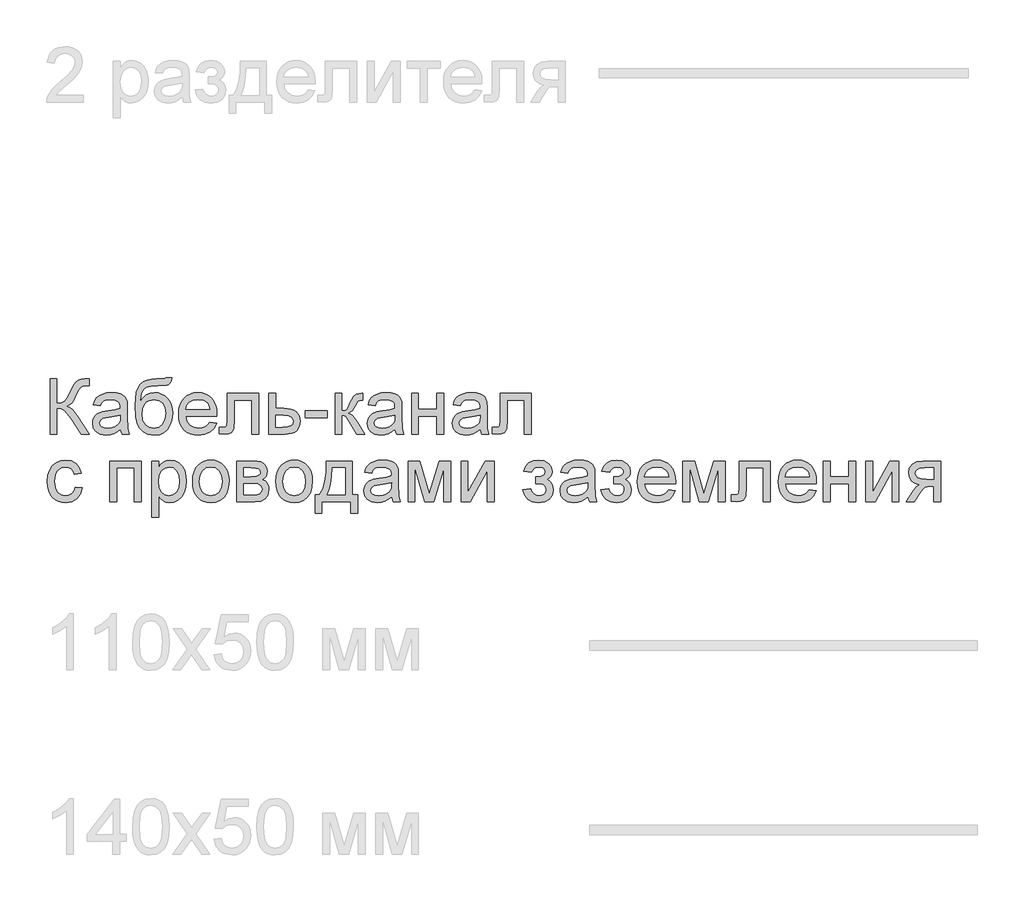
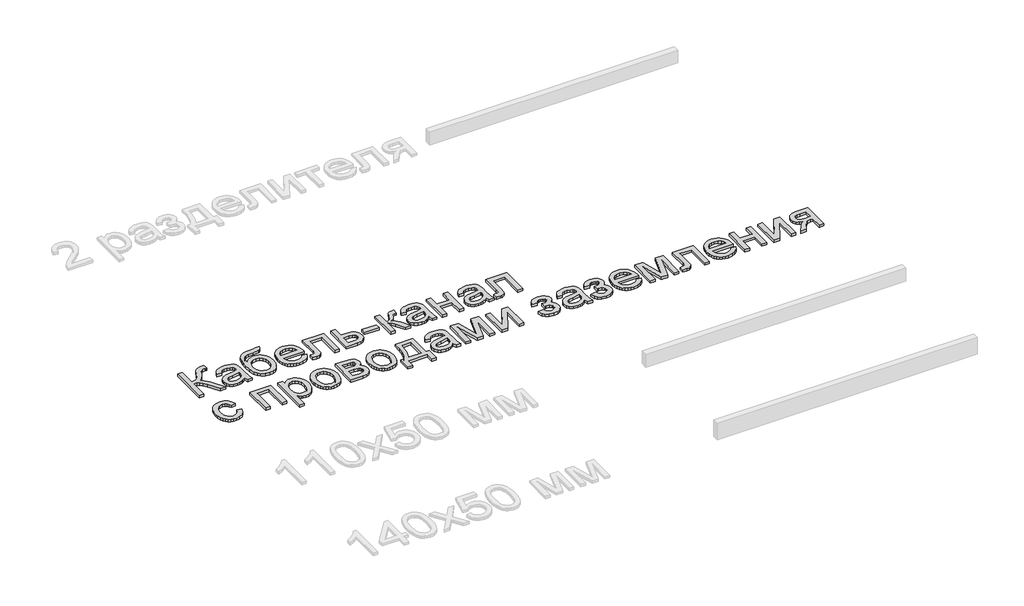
# One storey, part 81 of 168: 1 proxy.
"""IFC4 building model written with IfcOpenShell, lengths in millimetres."""

from ifc_helpers import new_model, si_unit, origin, origin_with_axes, place, context, project, spatial, polyline, outline, extrude, element, save

model = new_model("IFC4")

# Units and contexts
model_context = context("Model", 3, world=origin())
ifc_project = project(units=[si_unit("LENGTHUNIT", "METRE", prefix="MILLI")], contexts=[model_context])

# Site, building, storey
site = spatial("IfcSite", under=ifc_project)
building = spatial("IfcBuilding", under=site)
storey = spatial("IfcBuildingStorey", under=building, Name="Этаж 01", Elevation=0.0)

# Proxy
placement = place(None, origin())
element("IfcBuildingElementProxy", 1, Name="300 мм Arial 2", ObjectType="300 мм Arial 2", at=placement, inside=storey, context=model_context, shape_type="SweptSolid", body=[
    extrude(outline(polyline([(778.8177316, -20847.0367511), (816.4888479, -20847.0367511), (816.4888479, -20978.8856582), (841.9922672, -20976.3932577), (858.6113363, -20968.9160561), (872.0482262, -20951.3220997), (888.0051077, -20918.4794346), (908.7904405, -20876.3569461), (918.8152248, -20864.9434072), (932.3348881, -20855.498037), (948.3837402, -20849.1520726), (965.9960907, -20847.0367511), (990.7177608, -20847.4782095), (990.7177608, -20885.1493258), (982.4036277, -20884.9285966), (974.0894946, -20884.7078674), (956.835829, -20886.9703417), (944.658935, -20893.7577645), (934.1742981, -20908.0131918), (922.2917097, -20932.5325268), (907.7143856, -20963.0667324), (895.620265, -20979.768575), (869.611008, -20995.3667716), (884.2021276, -21001.5747802), (898.6920797, -21012.399708), (927.3684812, -21047.9003205), (990.7177608, -21148.4056816), (947.0133798, -21148.4056816), (893.4497613, -21063.4985171), (872.7655961, -21036.2660524), (855.7418568, -21019.1687367), (838.3318413, -21010.1464307), (816.4888479, -21007.1389954), (816.4888479, -21148.4056816), (778.8177316, -21148.4056816), (778.8177316, -20847.0367511)])), origin_with_axes(), (0.0, 0.0, 1.0), 20.0),
    extrude(outline(polyline([(1160.2377842, -21120.1523443), (1142.2391575, -21135.584994), (1123.707102, -21145.6833548), (1104.2185533, -21151.256767), (1083.3504472, -21153.1145711), (1051.8689454, -21148.6448049), (1028.6463945, -21135.2355061), (1014.3265878, -21114.8732377), (1009.5533189, -21089.5445623), (1011.3559407, -21073.9279716), (1016.763806, -21059.7461207), (1025.1055303, -21047.6060149), (1035.7097288, -21038.1146594), (1062.0868678, -21025.7538244), (1094.6812126, -21020.0884417), (1133.1984575, -21014.1287533), (1160.017055, -21007.1389954), (1160.2377842, -20998.7512859), (1157.6442161, -20981.9390788), (1149.8635119, -20970.9394071), (1132.4626935, -20962.7724268), (1108.21927, -20960.0501), (1085.7784683, -20961.8619189), (1070.1066953, -20967.2973753), (1059.4197234, -20977.3497509), (1051.9333248, -20993.0123268), (1014.2622085, -20988.3034373), (1020.8013109, -20967.7020455), (1030.5593809, -20951.5152378), (1044.4469262, -20939.1360086), (1063.3744548, -20929.9573528), (1086.5234294, -20924.273576), (1113.0753124, -20922.3789837), (1138.5419435, -20924.0528468), (1158.729468, -20929.074436), (1173.9505855, -20936.625214), (1184.5179958, -20945.8866432), (1191.5261479, -20957.3369703), (1196.0694905, -20971.4544419), (1197.9089005, -21004.4166687), (1197.9089005, -21051.2848348), (1199.8218868, -21116.7310418), (1207.3266795, -21148.4056816), (1169.6555632, -21148.4056816), (1160.2377842, -21120.1523443)]), holes=[polyline([(1160.2377842, -21044.8101117), (1099.4636786, -21056.3616064), (1067.0532748, -21062.4684475), (1052.3747832, -21072.4012614), (1047.2244352, -21086.895812), (1050.0295355, -21098.0978187), (1058.4448361, -21107.2764745), (1072.2863962, -21113.4017097), (1091.3702747, -21115.4434548), (1111.6037844, -21113.1901776), (1129.4828494, -21106.4303459), (1143.9774, -21096.4699409), (1154.0573666, -21084.6149436), (1158.5271329, -21072.4012614), (1160.017055, -21055.4786896), (1160.2377842, -21044.8101117)])]), origin_with_axes(), (0.0, 0.0, 1.0), 20.0),
    extrude(outline(polyline([(1405.1000402, -20842.3278616), (1438.0622669, -20842.3278616), (1434.4938116, -20860.2345177), (1428.3501822, -20871.721633), (1419.8337141, -20878.5182529), (1409.1467421, -20882.3534227), (1363.0143399, -20884.7078674), (1324.7086272, -20886.8783712), (1300.8790709, -20893.3898825), (1286.6236436, -20904.6838598), (1277.0403176, -20921.2017613), (1271.4025261, -20943.072346), (1268.9837019, -20970.4243723), (1284.1312431, -20949.3815222), (1301.6148349, -20934.3719368), (1321.4528715, -20925.377222), (1343.663747, -20922.3789837), (1364.1869638, -20924.2850723), (1382.8615735, -20930.0033381), (1399.6875763, -20939.533781), (1414.664972, -20952.8764011), (1426.9614277, -20969.4701784), (1435.7446103, -20988.7540927), (1441.0145199, -21010.7281441), (1442.7711565, -21035.3923327), (1439.2854746, -21071.3527977), (1428.8284288, -21100.2131402), (1413.5889172, -21122.6447449), (1395.7558375, -21139.3189963), (1373.167883, -21149.6656774), (1343.663747, -21153.1145711), (1309.6622536, -21148.672396), (1284.1772283, -21135.3458707), (1265.4244436, -21115.0939669), (1251.6196718, -21089.8756561), (1243.1215977, -21051.9010372), (1240.2889063, -20993.3802088), (1242.0754333, -20953.7156319), (1247.4350141, -20921.1005938), (1256.3676488, -20895.5350944), (1268.8733373, -20877.0191337), (1285.085437, -20863.9018413), (1305.137305, -20854.5323468), (1329.0289413, -20848.91065), (1356.760346, -20847.0367511), (1398.6988934, -20846.1906225), (1405.1000402, -20842.3278616)]), holes=[polyline([(1405.1000402, -21034.2151103), (1401.01655, -21004.5730185), (1388.7660796, -20980.8354328), (1369.0843928, -20965.2464332), (1342.7072538, -20960.0501), (1315.2080746, -20965.5407388), (1304.121031, -20972.4040373), (1294.809018, -20982.0126552), (1282.1722715, -21007.6632273), (1277.9600226, -21040.6898334), (1282.6137299, -21072.704764), (1296.5748516, -21096.2032265), (1317.3601843, -21110.6333977), (1342.4865246, -21115.4434548), (1367.7416235, -21109.8792396), (1387.73601, -21093.1865941), (1400.7590326, -21067.3152928), (1405.1000402, -21034.2151103)])]), origin_with_axes(), (0.0, 0.0, 1.0), 20.0),
    extrude(outline(polyline([(1644.8119482, -21082.481228), (1681.7473005, -21087.1901176), (1668.4391693, -21115.0203905), (1647.2031812, -21135.8241173), (1618.5175826, -21148.7919577), (1582.8606202, -21153.1145711), (1559.486318, -21151.2498692), (1538.6595985, -21145.6557637), (1520.3804619, -21136.3322543), (1504.648908, -21123.2793413), (1491.9983659, -21106.860308), (1482.9622644, -21087.4384379), (1477.5406035, -21065.013731), (1475.7333832, -21039.5861874), (1477.5589976, -21013.2964203), (1483.0358408, -20990.1244531), (1492.1639128, -20970.0702859), (1504.9432136, -20953.1339185), (1520.6333807, -20939.6786346), (1538.4940516, -20930.0677174), (1558.5252262, -20924.3011672), (1580.7269046, -20922.3789837), (1602.2135124, -20924.2965686), (1621.6445796, -20930.0493233), (1639.020106, -20939.6372478), (1654.3400919, -20953.0603421), (1666.8457805, -20969.9599213), (1675.7784152, -20989.9773003), (1681.137996, -21013.1124793), (1682.9245229, -21039.3654582), (1682.7037937, -21049.5190013), (1513.4044995, -21049.5190013), (1519.9252079, -21077.7171562), (1535.072749, -21098.4473066), (1556.9341366, -21111.1944178), (1583.5963842, -21115.4434548), (1603.6459529, -21113.4752861), (1620.5317365, -21107.5707801), (1634.2537349, -21097.3620547), (1644.8119482, -21082.481228)]), holes=[polyline([(1513.4044995, -21011.847885), (1645.2534066, -21011.847885), (1640.158241, -20991.945469), (1630.1702448, -20977.7084358), (1608.2076897, -20964.464684), (1580.5797519, -20960.0501), (1555.1866971, -20963.5725701), (1534.1898323, -20974.1399805), (1519.5941141, -20990.6118968), (1513.4044995, -21011.847885)])]), origin_with_axes(), (0.0, 0.0, 1.0), 20.0),
    extrude(outline(polyline([(1739.4311974, -20927.0878733), (1908.9512207, -20927.0878733), (1908.9512207, -21148.1849524), (1871.2801044, -21148.1849524), (1871.2801044, -20964.7589896), (1777.1023137, -20964.7589896), (1777.1023137, -21070.3411222), (1774.5639279, -21119.0486984), (1769.8090531, -21130.0759612), (1760.6212003, -21139.6133019), (1746.6784727, -21146.2075866), (1727.6589735, -21148.4056816), (1697.0511915, -21146.4926952), (1697.0511915, -21110.7345653), (1713.9001869, -21110.7345653), (1730.9331233, -21108.4169087), (1737.7389402, -21101.0592688), (1739.4311974, -21068.2074066), (1739.4311974, -20927.0878733)])), origin_with_axes(), (0.0, 0.0, 1.0), 20.0),
    extrude(outline(polyline([(1965.4578952, -20927.0878733), (2003.1290115, -20927.0878733), (2003.1290115, -21007.1389954), (2046.5390869, -21007.1389954), (2084.173415, -21011.857082), (2099.3209562, -21017.7546902), (2112.0220821, -21026.0113418), (2122.0652606, -21036.3419281), (2129.2389595, -21048.4613405), (2134.9779186, -21078.0666441), (2130.0942851, -21105.0231973), (2115.4433846, -21127.7675016), (2104.2114875, -21136.7967054), (2090.0503299, -21143.2461366), (2052.9402337, -21148.4056816), (1965.4578952, -21148.4056816), (1965.4578952, -20927.0878733)]), holes=[polyline([(2003.1290115, -21110.7345653), (2038.2985302, -21110.7345653), (2065.5861772, -21108.7571995), (2083.7319567, -21102.8251024), (2093.9130909, -21092.6991504), (2097.3068023, -21078.1402205), (2094.7960077, -21065.8345678), (2087.2636238, -21054.9636548), (2071.1228013, -21047.3484975), (2042.7866906, -21044.8101117), (2003.1290115, -21044.8101117), (2003.1290115, -21110.7345653)])]), origin_with_axes(), (0.0, 0.0, 1.0), 20.0),
    extrude(outline(polyline([(2163.2312558, -21058.9367803), (2163.2312558, -21021.265664), (2280.9534943, -21021.265664), (2280.9534943, -21058.9367803), (2163.2312558, -21058.9367803)])), origin_with_axes(), (0.0, 0.0, 1.0), 20.0),
    extrude(outline(polyline([(2323.3335001, -20927.0878733), (2361.0046164, -20927.0878733), (2361.0046164, -21021.265664), (2376.3269015, -21019.5734069), (2386.2413213, -21014.4966353), (2395.0153069, -21001.2528835), (2406.9162894, -20975.0596854), (2424.0963786, -20941.0306009), (2439.2531168, -20929.9573528), (2466.8074782, -20927.0878733), (2474.0179653, -20927.0878733), (2474.0179653, -20964.9797188), (2463.8644223, -20964.7589896), (2445.4703225, -20968.7321151), (2432.5208763, -20993.5273616), (2417.3273499, -21020.345959), (2396.0269824, -21033.4793463), (2407.9647531, -21038.7814455), (2419.7921592, -21048.1394438), (2443.1158777, -21079.0231373), (2483.4357444, -21148.4056816), (2440.6142802, -21148.4056816), (2401.1037539, -21080.4946653), (2381.2381262, -21051.7630814), (2371.9491058, -21046.5483542), (2361.0046164, -21044.8101117), (2361.0046164, -21148.4056816), (2323.3335001, -21148.4056816), (2323.3335001, -20927.0878733)])), origin_with_axes(), (0.0, 0.0, 1.0), 20.0),
    extrude(outline(polyline([(2648.2468783, -21120.1523443), (2630.2482516, -21135.584994), (2611.7161961, -21145.6833548), (2592.2276474, -21151.256767), (2571.3595413, -21153.1145711), (2539.8780395, -21148.6448049), (2516.6554886, -21135.2355061), (2502.3356819, -21114.8732377), (2497.562413, -21089.5445623), (2499.3650348, -21073.9279716), (2504.7729001, -21059.7461207), (2513.1146244, -21047.6060149), (2523.7188229, -21038.1146594), (2550.0959619, -21025.7538244), (2582.6903067, -21020.0884417), (2621.2075516, -21014.1287533), (2648.0261491, -21007.1389954), (2648.2468783, -20998.7512859), (2645.6533102, -20981.9390788), (2637.872606, -20970.9394071), (2620.4717876, -20962.7724268), (2596.2283641, -20960.0501), (2573.7875624, -20961.8619189), (2558.1157894, -20967.2973753), (2547.4288175, -20977.3497509), (2539.9424189, -20993.0123268), (2502.2713026, -20988.3034373), (2508.810405, -20967.7020455), (2518.568475, -20951.5152378), (2532.4560203, -20939.1360086), (2551.3835489, -20929.9573528), (2574.5325235, -20924.273576), (2601.0844065, -20922.3789837), (2626.5510376, -20924.0528468), (2646.7385621, -20929.074436), (2661.9596796, -20936.625214), (2672.5270899, -20945.8866432), (2679.5352419, -20957.3369703), (2684.0785846, -20971.4544419), (2685.9179946, -21004.4166687), (2685.9179946, -21051.2848348), (2687.8309809, -21116.7310418), (2695.3357736, -21148.4056816), (2657.6646573, -21148.4056816), (2648.2468783, -21120.1523443)]), holes=[polyline([(2648.2468783, -21044.8101117), (2587.4727726, -21056.3616064), (2555.0623689, -21062.4684475), (2540.3838773, -21072.4012614), (2535.2335293, -21086.895812), (2538.0386295, -21098.0978187), (2546.4539302, -21107.2764745), (2560.2954903, -21113.4017097), (2579.3793688, -21115.4434548), (2599.6128785, -21113.1901776), (2617.4919435, -21106.4303459), (2631.9864941, -21096.4699409), (2642.0664607, -21084.6149436), (2646.536227, -21072.4012614), (2648.0261491, -21055.4786896), (2648.2468783, -21044.8101117)])]), origin_with_axes(), (0.0, 0.0, 1.0), 20.0),
    extrude(outline(polyline([(2737.7157795, -20927.0878733), (2775.3868958, -20927.0878733), (2775.3868958, -21011.847885), (2874.2735761, -21011.847885), (2874.2735761, -20927.0878733), (2911.9446924, -20927.0878733), (2911.9446924, -21148.4056816), (2874.2735761, -21148.4056816), (2874.2735761, -21049.5190013), (2775.3868958, -21049.5190013), (2775.3868958, -21148.4056816), (2737.7157795, -21148.4056816), (2737.7157795, -20927.0878733)])), origin_with_axes(), (0.0, 0.0, 1.0), 20.0),
    extrude(outline(polyline([(3109.718053, -21120.1523443), (3091.7194264, -21135.584994), (3073.1873709, -21145.6833548), (3053.6988222, -21151.256767), (3032.830716, -21153.1145711), (3001.3492143, -21148.6448049), (2978.1266633, -21135.2355061), (2963.8068567, -21114.8732377), (2959.0335878, -21089.5445623), (2960.8362096, -21073.9279716), (2966.2440749, -21059.7461207), (2974.5857991, -21047.6060149), (2985.1899976, -21038.1146594), (3011.5671367, -21025.7538244), (3044.1614815, -21020.0884417), (3082.6787264, -21014.1287533), (3109.4973238, -21007.1389954), (3109.718053, -20998.7512859), (3107.1244849, -20981.9390788), (3099.3437807, -20970.9394071), (3081.9429624, -20962.7724268), (3057.6995389, -20960.0501), (3035.2587372, -20961.8619189), (3019.5869642, -20967.2973753), (3008.8999922, -20977.3497509), (3001.4135936, -20993.0123268), (2963.7424773, -20988.3034373), (2970.2815798, -20967.7020455), (2980.0396497, -20951.5152378), (2993.927195, -20939.1360086), (3012.8547237, -20929.9573528), (3036.0036982, -20924.273576), (3062.5555812, -20922.3789837), (3088.0222123, -20924.0528468), (3108.2097368, -20929.074436), (3123.4308544, -20936.625214), (3133.9982647, -20945.8866432), (3141.0064167, -20957.3369703), (3145.5497593, -20971.4544419), (3147.3891693, -21004.4166687), (3147.3891693, -21051.2848348), (3149.3021557, -21116.7310418), (3156.8069484, -21148.4056816), (3119.1358321, -21148.4056816), (3109.718053, -21120.1523443)]), holes=[polyline([(3109.718053, -21044.8101117), (3048.9439474, -21056.3616064), (3016.5335436, -21062.4684475), (3001.855052, -21072.4012614), (2996.7047041, -21086.895812), (2999.5098043, -21098.0978187), (3007.9251049, -21107.2764745), (3021.766665, -21113.4017097), (3040.8505435, -21115.4434548), (3061.0840532, -21113.1901776), (3078.9631182, -21106.4303459), (3093.4576688, -21096.4699409), (3103.5376355, -21084.6149436), (3108.0074017, -21072.4012614), (3109.4973238, -21055.4786896), (3109.718053, -21044.8101117)])]), origin_with_axes(), (0.0, 0.0, 1.0), 20.0),
    extrude(outline(polyline([(3218.0225124, -20927.0878733), (3387.5425358, -20927.0878733), (3387.5425358, -21148.1849524), (3349.8714195, -21148.1849524), (3349.8714195, -20964.7589896), (3255.6936287, -20964.7589896), (3255.6936287, -21070.3411222), (3253.1552429, -21119.0486984), (3248.4003681, -21130.0759612), (3239.2125153, -21139.6133019), (3225.2697877, -21146.2075866), (3206.2502885, -21148.4056816), (3175.6425065, -21146.4926952), (3175.6425065, -21110.7345653), (3192.4915019, -21110.7345653), (3209.5244383, -21108.4169087), (3216.3302552, -21101.0592688), (3218.0225124, -21068.2074066), (3218.0225124, -20927.0878733)])), origin_with_axes(), (0.0, 0.0, 1.0), 20.0),
    extrude(outline(polyline([(915.3755282, -21434.279013), (953.0466445, -21438.9879025), (942.5436135, -21472.4927552), (922.8067445, -21497.8122335), (895.6938414, -21513.7323269), (863.0627085, -21519.0390246), (841.9347856, -21517.1881184), (822.9911621, -21511.6353995), (806.231838, -21502.380868), (791.6568132, -21489.424524), (779.8592975, -21473.0100893), (771.4325005, -21453.3812856), (766.3764223, -21430.5381129), (764.6910629, -21404.4805713), (767.5697396, -21370.9573245), (776.2057694, -21341.903844), (790.7371082, -21318.4421697), (811.3017117, -21301.6943419), (835.9038202, -21291.6511634), (862.5476737, -21288.3034373), (894.3786633, -21292.9019622), (919.8269003, -21306.697537), (938.0830443, -21328.9543977), (948.3377549, -21358.9367803), (910.6666386, -21363.6456699), (903.8332306, -21347.2105417), (893.1922439, -21335.4291209), (879.3322897, -21328.3381954), (862.8419793, -21325.9745536), (838.4973882, -21330.6282608), (819.1743864, -21344.5893825), (806.565231, -21368.6120768), (802.3621793, -21403.4505018), (806.4732606, -21438.7579762), (818.8065044, -21462.863444), (837.7800183, -21476.7417922), (861.8119097, -21481.3679083), (881.3188525, -21478.4800347), (897.3125222, -21469.8164137), (908.9467903, -21455.1563162), (915.3755282, -21434.279013)])), origin_with_axes(), (0.0, 0.0, 1.0), 20.0),
    extrude(outline(polyline([(1103.7311097, -21293.0123268), (1273.2511331, -21293.0123268), (1273.2511331, -21514.3301351), (1235.5800168, -21514.3301351), (1235.5800168, -21330.6834431), (1141.402226, -21330.6834431), (1141.402226, -21514.3301351), (1103.7311097, -21514.3301351), (1103.7311097, -21293.0123268)])), origin_with_axes(), (0.0, 0.0, 1.0), 20.0),
    extrude(outline(polyline([(1329.7578075, -21599.0901468), (1329.7578075, -21293.0123268), (1367.4289238, -21293.0123268), (1367.4289238, -21329.9476791), (1379.7161825, -21311.7283233), (1393.4749691, -21298.7144977), (1409.5146241, -21290.9062024), (1428.6444878, -21288.3034373), (1454.120316, -21291.945469), (1476.3955708, -21302.8715643), (1494.5321532, -21320.4195354), (1507.591964, -21343.9271949), (1515.4830328, -21371.6838915), (1518.1133891, -21401.9789738), (1515.142742, -21434.1962395), (1506.2308006, -21463.0105968), (1491.6626736, -21486.9597147), (1471.7234695, -21504.5812622), (1448.5009185, -21515.424584), (1424.0827511, -21519.0390246), (1406.7647062, -21516.6202005), (1391.3044653, -21509.3637282), (1378.0699106, -21498.4100418), (1367.4289238, -21484.8995755), (1367.4289238, -21599.0901468), (1329.7578075, -21599.0901468)]), holes=[polyline([(1367.4289238, -21405.4370645), (1371.5032169, -21439.2086317), (1383.7260962, -21462.8266558), (1401.761511, -21476.7325952), (1423.2734107, -21481.3679083), (1445.1347983, -21476.5670483), (1463.6300656, -21462.1644682), (1476.239221, -21437.6819214), (1480.4422728, -21402.6411614), (1476.3403885, -21369.0535352), (1464.0347358, -21345.1044173), (1446.0269121, -21330.7570195), (1424.8185151, -21325.9745536), (1403.5273446, -21331.0605222), (1384.8297422, -21346.3184279), (1371.7791284, -21371.2700242), (1367.4289238, -21405.4370645)])]), origin_with_axes(), (0.0, 0.0, 1.0), 20.0),
    extrude(outline(polyline([(1551.0756158, -21403.671231), (1553.1127624, -21375.008625), (1559.224202, -21350.3099476), (1569.4099348, -21329.5751986), (1583.6699606, -21312.8043781), (1598.0265555, -21302.0852165), (1613.8730724, -21294.4286725), (1631.2095114, -21289.8347461), (1650.0358725, -21288.3034373), (1670.818906, -21290.1681391), (1689.6107782, -21295.7622447), (1706.411489, -21305.085754), (1721.2210386, -21318.1386671), (1733.3082614, -21334.4795255), (1741.941992, -21353.6668708), (1747.1222303, -21375.700703), (1748.8489764, -21400.5810222), (1745.7955559, -21438.6384146), (1736.6352942, -21467.6091217), (1721.6349059, -21489.3049624), (1701.0611053, -21505.5377554), (1676.6245437, -21515.6637073), (1650.0358725, -21519.0390246), (1628.9493364, -21517.1812206), (1609.9827203, -21511.6078083), (1593.1360242, -21502.318788), (1578.4092481, -21489.3141594), (1566.450784, -21472.8146519), (1557.9090239, -21453.0409947), (1552.7839679, -21429.9931877), (1551.0756158, -21403.671231)]), holes=[polyline([(1588.7467321, -21403.5976546), (1593.1061338, -21437.6911185), (1606.1843387, -21461.9805272), (1625.8660255, -21476.5210631), (1650.0358725, -21481.3679083), (1674.095355, -21476.4934719), (1693.7402536, -21461.8701626), (1706.8184585, -21437.2588571), (1711.1778601, -21402.4204322), (1706.7908673, -21369.3202497), (1693.629889, -21345.3619347), (1673.9573993, -21330.8213989), (1650.0358725, -21325.9745536), (1625.8660255, -21330.8030048), (1606.1843387, -21345.2883583), (1593.1061338, -21369.5225848), (1588.7467321, -21403.5976546)])]), origin_with_axes(), (0.0, 0.0, 1.0), 20.0),
    extrude(outline(polyline([(1791.2289823, -21293.0123268), (1874.2231604, -21293.0123268), (1900.9038021, -21294.2723226), (1919.7301632, -21298.0523101), (1933.5809203, -21305.1892208), (1945.3347501, -21316.5199863), (1953.3637746, -21331.2812514), (1956.0401161, -21348.7096609), (1954.4214353, -21362.753556), (1949.565393, -21374.8660707), (1941.453595, -21385.1023872), (1930.0676473, -21393.5176879), (1944.0103749, -21401.3443773), (1955.3779285, -21413.9351386), (1962.9379035, -21430.2966904), (1965.4578952, -21449.4357512), (1959.0751426, -21478.1489409), (1943.9000103, -21498.3640565), (1919.877316, -21510.3386155), (1886.9518774, -21514.3301351), (1791.2289823, -21514.3301351), (1791.2289823, -21293.0123268)]), holes=[polyline([(1828.9000986, -21377.7723385), (1866.1297565, -21377.7723385), (1896.8479031, -21375.8593521), (1911.7839121, -21368.2074066), (1916.7227279, -21361.8798363), (1918.3689998, -21354.3750436), (1915.4811262, -21343.1362486), (1906.8175052, -21335.9073674), (1891.1641263, -21331.9894242), (1867.3069789, -21330.6834431), (1828.9000986, -21330.6834431), (1828.9000986, -21377.7723385)]), polyline([(1828.9000986, -21476.6590188), (1875.1060772, -21476.6590188), (1900.2875998, -21474.9575646), (1916.0881315, -21469.8532019), (1924.5678114, -21460.5733786), (1927.7867789, -21446.3455424), (1926.1772952, -21436.9185663), (1921.348844, -21428.20896), (1913.9360218, -21421.3939461), (1904.573425, -21417.6507468), (1871.4272572, -21415.4434548), (1828.9000986, -21415.4434548), (1828.9000986, -21476.6590188)])]), origin_with_axes(), (0.0, 0.0, 1.0), 20.0),
    extrude(outline(polyline([(2003.1290115, -21403.671231), (2005.1661581, -21375.008625), (2011.2775977, -21350.3099476), (2021.4633304, -21329.5751986), (2035.7233563, -21312.8043781), (2050.0799511, -21302.0852165), (2065.9264681, -21294.4286725), (2083.2629071, -21289.8347461), (2102.0892682, -21288.3034373), (2122.8723017, -21290.1681391), (2141.6641738, -21295.7622447), (2158.4648847, -21305.085754), (2173.2744343, -21318.1386671), (2185.3616571, -21334.4795255), (2193.9953877, -21353.6668708), (2199.175626, -21375.700703), (2200.9023721, -21400.5810222), (2197.8489516, -21438.6384146), (2188.6886899, -21467.6091217), (2173.6883015, -21489.3049624), (2153.1145009, -21505.5377554), (2128.6779394, -21515.6637073), (2102.0892682, -21519.0390246), (2081.0027321, -21517.1812206), (2062.036116, -21511.6078083), (2045.1894199, -21502.318788), (2030.4626438, -21489.3141594), (2018.5041796, -21472.8146519), (2009.9624196, -21453.0409947), (2004.8373635, -21429.9931877), (2003.1290115, -21403.671231)]), holes=[polyline([(2040.8001278, -21403.5976546), (2045.1595295, -21437.6911185), (2058.2377344, -21461.9805272), (2077.9194211, -21476.5210631), (2102.0892682, -21481.3679083), (2126.1487507, -21476.4934719), (2145.7936492, -21461.8701626), (2158.8718542, -21437.2588571), (2163.2312558, -21402.4204322), (2158.844263, -21369.3202497), (2145.6832846, -21345.3619347), (2126.0107949, -21330.8213989), (2102.0892682, -21325.9745536), (2077.9194211, -21330.8030048), (2058.2377344, -21345.2883583), (2045.1595295, -21369.5225848), (2040.8001278, -21403.5976546)])]), origin_with_axes(), (0.0, 0.0, 1.0), 20.0),
    extrude(outline(polyline([(2276.2446047, -21293.0123268), (2417.5112909, -21293.0123268), (2417.5112909, -21476.6590188), (2445.7646281, -21476.6590188), (2445.7646281, -21575.5456991), (2408.0935118, -21575.5456991), (2408.0935118, -21514.3301351), (2252.700157, -21514.3301351), (2252.700157, -21575.5456991), (2215.0290407, -21575.5456991), (2215.0290407, -21476.6590188), (2238.5734884, -21476.6590188), (2255.6891982, -21445.7293401), (2267.6729542, -21404.8116651), (2274.5247564, -21353.9059941), (2276.2446047, -21293.0123268)]), holes=[polyline([(2309.2068315, -21330.6834431), (2306.1166227, -21376.8066483), (2300.3776636, -21416.5103126), (2291.9899541, -21449.7944361), (2280.9534943, -21476.6590188), (2379.8401746, -21476.6590188), (2379.8401746, -21330.6834431), (2309.2068315, -21330.6834431)])]), origin_with_axes(), (0.0, 0.0, 1.0), 20.0),
    extrude(outline(polyline([(2629.4113201, -21486.0767979), (2611.4126935, -21501.5094476), (2592.880638, -21511.6078083), (2573.3920893, -21517.1812206), (2552.5239831, -21519.0390246), (2521.0424814, -21514.5692584), (2497.8199304, -21501.1599597), (2483.5001238, -21480.7976912), (2478.7268549, -21455.4690159), (2480.5294767, -21439.8524252), (2485.937342, -21425.6705743), (2494.2790662, -21413.5304684), (2504.8832647, -21404.039113), (2531.2604038, -21391.6782779), (2563.8547486, -21386.0128952), (2602.3719935, -21380.0532069), (2629.1905909, -21373.063449), (2629.4113201, -21364.6757395), (2626.817752, -21347.8635323), (2619.0370478, -21336.8638606), (2601.6362295, -21328.6968803), (2577.392806, -21325.9745536), (2554.9520043, -21327.7863724), (2539.2802313, -21333.2218289), (2528.5932593, -21343.2742044), (2521.1068607, -21358.9367803), (2483.4357444, -21354.2278908), (2489.9748469, -21333.6264991), (2499.7329168, -21317.4396913), (2513.6204621, -21305.0604621), (2532.5479908, -21295.8818064), (2555.6969653, -21290.1980295), (2582.2488483, -21288.3034373), (2607.7154794, -21289.9773003), (2627.9030039, -21294.9988896), (2643.1241215, -21302.5496675), (2653.6915318, -21311.8110968), (2660.6996838, -21323.2614239), (2665.2430264, -21337.3788954), (2667.0824364, -21370.3411222), (2667.0824364, -21417.2092884), (2668.9954228, -21482.6554953), (2676.5002155, -21514.3301351), (2638.8290992, -21514.3301351), (2629.4113201, -21486.0767979)]), holes=[polyline([(2629.4113201, -21410.7345653), (2568.6372145, -21422.2860599), (2536.2268107, -21428.392901), (2521.5483191, -21438.3257149), (2516.3979712, -21452.8202655), (2519.2030714, -21464.0222723), (2527.618372, -21473.200928), (2541.4599321, -21479.3261633), (2560.5438106, -21481.3679083), (2580.7773203, -21479.1146311), (2598.6563853, -21472.3547995), (2613.1509359, -21462.3943944), (2623.2309026, -21450.5393971), (2627.7006688, -21438.3257149), (2629.1905909, -21421.4031431), (2629.4113201, -21410.7345653)])]), origin_with_axes(), (0.0, 0.0, 1.0), 20.0),
    extrude(outline(polyline([(2718.8802213, -21293.0123268), (2783.7010289, -21293.0123268), (2833.6594038, -21470.1842957), (2887.5173279, -21293.0123268), (2949.6158087, -21293.0123268), (2949.6158087, -21514.3301351), (2911.9446924, -21514.3301351), (2911.9446924, -21336.1280966), (2857.7924627, -21514.3301351), (2808.3491226, -21514.3301351), (2756.5513376, -21327.5932344), (2756.5513376, -21514.3301351), (2718.8802213, -21514.3301351), (2718.8802213, -21293.0123268)])), origin_with_axes(), (0.0, 0.0, 1.0), 20.0),
    extrude(outline(polyline([(3006.1224832, -21293.0123268), (3043.7935995, -21293.0123268), (3043.7935995, -21461.7965862), (3136.3527095, -21293.0123268), (3185.0602856, -21293.0123268), (3185.0602856, -21514.3301351), (3147.3891693, -21514.3301351), (3147.3891693, -21346.5759453), (3055.4186705, -21514.3301351), (3006.1224832, -21514.3301351), (3006.1224832, -21293.0123268)])), origin_with_axes(), (0.0, 0.0, 1.0), 20.0),
    extrude(outline(polyline([(3411.0869835, -21415.4434548), (3411.0869835, -21377.7723385), (3440.8118487, -21376.3008105), (3455.8214341, -21368.464924), (3461.1189348, -21361.1164812), (3462.8847684, -21352.0941752), (3460.5211266, -21341.3796121), (3453.4302011, -21333.0746761), (3442.6052734, -21327.7495842), (3429.0396248, -21325.9745536), (3415.3268234, -21327.7403872), (3403.8397081, -21333.0378879), (3394.5782789, -21341.8670558), (3387.5425358, -21354.2278908), (3345.1625299, -21349.5190013), (3356.4013249, -21322.737192), (3373.4894435, -21303.6073283), (3396.4268859, -21292.12941), (3425.2136521, -21288.3034373), (3456.7043509, -21292.9663416), (3480.5431041, -21306.9550544), (3495.5526895, -21327.4184904), (3500.5558847, -21351.505564), (3498.7762555, -21363.8663991), (3493.4373681, -21374.9028589), (3484.5392223, -21384.6149436), (3472.0818183, -21393.0026531), (3486.6223541, -21403.4688959), (3496.9874293, -21416.4735244), (3503.195438, -21432.0533269), (3505.2647742, -21450.2450915), (3500.0132587, -21477.9741969), (3484.2587123, -21499.9459491), (3459.0679927, -21514.2657558), (3425.5079577, -21519.0390246), (3392.6836866, -21514.6244407), (3367.5665434, -21501.3806889), (3350.156528, -21479.3077692), (3340.4536404, -21448.4056816), (3382.8336462, -21443.696792), (3389.1796106, -21459.6260824), (3399.8297944, -21471.5086709), (3413.5517928, -21478.903099), (3429.1132012, -21481.3679083), (3444.2699394, -21479.0042665), (3456.6307745, -21471.9133411), (3464.852937, -21461.1435957), (3467.5936579, -21447.743494), (3465.8922037, -21437.1300984), (3460.787841, -21427.9514426), (3446.2932904, -21417.3564412), (3418.4446234, -21415.2227256), (3411.0869835, -21415.4434548)])), origin_with_axes(), (0.0, 0.0, 1.0), 20.0),
    extrude(outline(polyline([(3693.6203557, -21486.0767979), (3675.6217291, -21501.5094476), (3657.0896736, -21511.6078083), (3637.6011249, -21517.1812206), (3616.7330188, -21519.0390246), (3585.251517, -21514.5692584), (3562.0289661, -21501.1599597), (3547.7091594, -21480.7976912), (3542.9358905, -21455.4690159), (3544.7385123, -21439.8524252), (3550.1463776, -21425.6705743), (3558.4881019, -21413.5304684), (3569.0923004, -21404.039113), (3595.4694394, -21391.6782779), (3628.0637842, -21386.0128952), (3666.5810291, -21380.0532069), (3693.3996266, -21373.063449), (3693.6203557, -21364.6757395), (3691.0267877, -21347.8635323), (3683.2460835, -21336.8638606), (3665.8452651, -21328.6968803), (3641.6018416, -21325.9745536), (3619.1610399, -21327.7863724), (3603.4892669, -21333.2218289), (3592.802295, -21343.2742044), (3585.3158964, -21358.9367803), (3547.6447801, -21354.2278908), (3554.1838825, -21333.6264991), (3563.9419524, -21317.4396913), (3577.8294978, -21305.0604621), (3596.7570264, -21295.8818064), (3619.906001, -21290.1980295), (3646.457884, -21288.3034373), (3671.9245151, -21289.9773003), (3692.1120396, -21294.9988896), (3707.3331571, -21302.5496675), (3717.9005674, -21311.8110968), (3724.9087194, -21323.2614239), (3729.4520621, -21337.3788954), (3731.2914721, -21370.3411222), (3731.2914721, -21417.2092884), (3733.2044584, -21482.6554953), (3740.7092511, -21514.3301351), (3703.0381348, -21514.3301351), (3693.6203557, -21486.0767979)]), holes=[polyline([(3693.6203557, -21410.7345653), (3632.8462501, -21422.2860599), (3600.4358464, -21428.392901), (3585.7573548, -21438.3257149), (3580.6070068, -21452.8202655), (3583.412107, -21464.0222723), (3591.8274077, -21473.200928), (3605.6689678, -21479.3261633), (3624.7528463, -21481.3679083), (3644.986356, -21479.1146311), (3662.865421, -21472.3547995), (3677.3599716, -21462.3943944), (3687.4399382, -21450.5393971), (3691.9097045, -21438.3257149), (3693.3996266, -21421.4031431), (3693.6203557, -21410.7345653)])]), origin_with_axes(), (0.0, 0.0, 1.0), 20.0),
    extrude(outline(polyline([(3834.8870419, -21415.4434548), (3834.8870419, -21377.7723385), (3864.6119071, -21376.3008105), (3879.6214925, -21368.464924), (3884.9189932, -21361.1164812), (3886.6848268, -21352.0941752), (3884.321185, -21341.3796121), (3877.2302595, -21333.0746761), (3866.4053318, -21327.7495842), (3852.8396833, -21325.9745536), (3839.1268819, -21327.7403872), (3827.6397666, -21333.0378879), (3818.3783374, -21341.8670558), (3811.3425942, -21354.2278908), (3768.9625884, -21349.5190013), (3780.2013833, -21322.737192), (3797.289502, -21303.6073283), (3820.2269444, -21292.12941), (3849.0137105, -21288.3034373), (3880.5044093, -21292.9663416), (3904.3431626, -21306.9550544), (3919.352748, -21327.4184904), (3924.3559431, -21351.505564), (3922.576314, -21363.8663991), (3917.2374265, -21374.9028589), (3908.3392808, -21384.6149436), (3895.8818767, -21393.0026531), (3910.4224126, -21403.4688959), (3920.7874878, -21416.4735244), (3926.9954964, -21432.0533269), (3929.0648327, -21450.2450915), (3923.8133172, -21477.9741969), (3908.0587707, -21499.9459491), (3882.8680511, -21514.2657558), (3849.3080161, -21519.0390246), (3816.4837451, -21514.6244407), (3791.3666019, -21501.3806889), (3773.9565864, -21479.3077692), (3764.2536988, -21448.4056816), (3806.6337047, -21443.696792), (3812.9796691, -21459.6260824), (3823.6298528, -21471.5086709), (3837.3518513, -21478.903099), (3852.9132597, -21481.3679083), (3868.0699979, -21479.0042665), (3880.4308329, -21471.9133411), (3888.6529955, -21461.1435957), (3891.3937164, -21447.743494), (3889.6922621, -21437.1300984), (3884.5878994, -21427.9514426), (3870.0933488, -21417.3564412), (3842.2446818, -21415.2227256), (3834.8870419, -21415.4434548)])), origin_with_axes(), (0.0, 0.0, 1.0), 20.0),
    extrude(outline(polyline([(4131.1056244, -21448.4056816), (4168.0409767, -21453.1145711), (4154.7328456, -21480.944844), (4133.4968574, -21501.7485709), (4104.8112588, -21514.7164112), (4069.1542964, -21519.0390246), (4045.7799942, -21517.1743228), (4024.9532747, -21511.5802172), (4006.6741381, -21502.2567079), (3990.9425842, -21489.2037948), (3978.2920421, -21472.7847615), (3969.2559406, -21453.3628915), (3963.8342797, -21430.9381846), (3962.0270594, -21405.5106409), (3963.8526738, -21379.2208739), (3969.329517, -21356.0489067), (3978.457589, -21335.9947394), (3991.2368898, -21319.0583721), (4006.9270569, -21305.6030881), (4024.7877278, -21295.992171), (4044.8189024, -21290.2256207), (4067.0205809, -21288.3034373), (4088.5071886, -21290.2210222), (4107.9382558, -21295.9737769), (4125.3137823, -21305.5617014), (4140.6337681, -21318.9847957), (4153.1394567, -21335.8843748), (4162.0720914, -21355.9017539), (4167.4316722, -21379.0369329), (4169.2181991, -21405.2899117), (4168.9974699, -21415.4434548), (3999.6981757, -21415.4434548), (4006.2188841, -21443.6416097), (4021.3664253, -21464.3717602), (4043.2278128, -21477.1188713), (4069.8900604, -21481.3679083), (4089.9396292, -21479.3997397), (4106.8254127, -21473.4952336), (4120.5474112, -21463.2865083), (4131.1056244, -21448.4056816)]), holes=[polyline([(3999.6981757, -21377.7723385), (4131.5470828, -21377.7723385), (4126.4519172, -21357.8699226), (4116.463921, -21343.6328893), (4094.5013659, -21330.3891375), (4066.8734281, -21325.9745536), (4041.4803733, -21329.4970237), (4020.4835085, -21340.064434), (4005.8877903, -21356.5363503), (3999.6981757, -21377.7723385)])]), origin_with_axes(), (0.0, 0.0, 1.0), 20.0),
    extrude(outline(polyline([(4206.8893154, -21293.0123268), (4271.710123, -21293.0123268), (4321.6684979, -21470.1842957), (4375.526422, -21293.0123268), (4437.6249028, -21293.0123268), (4437.6249028, -21514.3301351), (4399.9537865, -21514.3301351), (4399.9537865, -21336.1280966), (4345.8015568, -21514.3301351), (4296.3582166, -21514.3301351), (4244.5604317, -21327.5932344), (4244.5604317, -21514.3301351), (4206.8893154, -21514.3301351), (4206.8893154, -21293.0123268)])), origin_with_axes(), (0.0, 0.0, 1.0), 20.0),
    extrude(outline(polyline([(4512.9671354, -21293.0123268), (4682.4871588, -21293.0123268), (4682.4871588, -21514.1094059), (4644.8160425, -21514.1094059), (4644.8160425, -21330.6834431), (4550.6382517, -21330.6834431), (4550.6382517, -21436.2655757), (4548.0998659, -21484.9731519), (4543.3449912, -21496.0004147), (4534.1571383, -21505.5377554), (4520.2144107, -21512.1320402), (4501.1949116, -21514.3301351), (4470.5871296, -21512.4171487), (4470.5871296, -21476.6590188), (4487.4361249, -21476.6590188), (4504.4690613, -21474.3413622), (4511.2748782, -21466.9837223), (4512.9671354, -21434.1318602), (4512.9671354, -21293.0123268)])), origin_with_axes(), (0.0, 0.0, 1.0), 20.0),
    extrude(outline(polyline([(4893.9457296, -21448.4056816), (4930.8810819, -21453.1145711), (4917.5729508, -21480.944844), (4896.3369626, -21501.7485709), (4867.651364, -21514.7164112), (4831.9944016, -21519.0390246), (4808.6200994, -21517.1743228), (4787.7933799, -21511.5802172), (4769.5142433, -21502.2567079), (4753.7826894, -21489.2037948), (4741.1321473, -21472.7847615), (4732.0960458, -21453.3628915), (4726.6743849, -21430.9381846), (4724.8671646, -21405.5106409), (4726.692779, -21379.2208739), (4732.1696222, -21356.0489067), (4741.2976942, -21335.9947394), (4754.076995, -21319.0583721), (4769.7671621, -21305.6030881), (4787.627833, -21295.992171), (4807.6590076, -21290.2256207), (4829.8606861, -21288.3034373), (4851.3472938, -21290.2210222), (4870.778361, -21295.9737769), (4888.1538874, -21305.5617014), (4903.4738733, -21318.9847957), (4915.9795619, -21335.8843748), (4924.9121966, -21355.9017539), (4930.2717774, -21379.0369329), (4932.0583043, -21405.2899117), (4931.8375751, -21415.4434548), (4762.5382809, -21415.4434548), (4769.0589893, -21443.6416097), (4784.2065304, -21464.3717602), (4806.067918, -21477.1188713), (4832.7301656, -21481.3679083), (4852.7797343, -21479.3997397), (4869.6655179, -21473.4952336), (4883.3875163, -21463.2865083), (4893.9457296, -21448.4056816)]), holes=[polyline([(4762.5382809, -21377.7723385), (4894.387188, -21377.7723385), (4889.2920224, -21357.8699226), (4879.3040262, -21343.6328893), (4857.3414711, -21330.3891375), (4829.7135333, -21325.9745536), (4804.3204785, -21329.4970237), (4783.3236137, -21340.064434), (4768.7278955, -21356.5363503), (4762.5382809, -21377.7723385)])]), origin_with_axes(), (0.0, 0.0, 1.0), 20.0),
    extrude(outline(polyline([(4969.7294206, -21293.0123268), (5007.4005369, -21293.0123268), (5007.4005369, -21377.7723385), (5106.2872172, -21377.7723385), (5106.2872172, -21293.0123268), (5143.9583335, -21293.0123268), (5143.9583335, -21514.3301351), (5106.2872172, -21514.3301351), (5106.2872172, -21415.4434548), (5007.4005369, -21415.4434548), (5007.4005369, -21514.3301351), (4969.7294206, -21514.3301351), (4969.7294206, -21293.0123268)])), origin_with_axes(), (0.0, 0.0, 1.0), 20.0),
    extrude(outline(polyline([(5200.465008, -21293.0123268), (5238.1361243, -21293.0123268), (5238.1361243, -21461.7965862), (5330.6952343, -21293.0123268), (5379.4028104, -21293.0123268), (5379.4028104, -21514.3301351), (5341.7316941, -21514.3301351), (5341.7316941, -21346.5759453), (5249.7611953, -21514.3301351), (5200.465008, -21514.3301351), (5200.465008, -21293.0123268)])), origin_with_axes(), (0.0, 0.0, 1.0), 20.0),
    extrude(outline(polyline([(5605.4295083, -21293.0123268), (5605.4295083, -21514.3301351), (5567.758392, -21514.3301351), (5567.758392, -21429.5701234), (5547.2305766, -21429.5701234), (5519.271545, -21434.3525894), (5508.1063265, -21444.7820439), (5493.0047706, -21466.5054757), (5462.9855997, -21514.3301351), (5419.4283715, -21514.3301351), (5457.2466406, -21453.8503351), (5473.9484832, -21432.1452974), (5489.3259506, -21422.5067891), (5463.5742109, -21414.6157203), (5445.4744168, -21399.624529), (5434.7690507, -21379.6853249), (5431.2005954, -21356.9502176), (5436.0750318, -21331.1616897), (5450.6983411, -21310.744239), (5474.5554885, -21297.4453048), (5507.1314392, -21293.0123268), (5605.4295083, -21293.0123268)]), holes=[polyline([(5567.758392, -21330.6834431), (5518.0943226, -21330.6834431), (5492.4437505, -21332.8631439), (5477.8848206, -21339.4022464), (5471.1249889, -21348.8660107), (5468.8717117, -21359.8196971), (5472.1918467, -21374.176292), (5482.1522517, -21384.136697), (5500.5555485, -21389.9584296), (5529.2043589, -21391.8990071), (5567.758392, -21391.8990071), (5567.758392, -21330.6834431)])]), origin_with_axes(), (0.0, 0.0, 1.0), 20.0),
])

save(model, "model.ifc")
